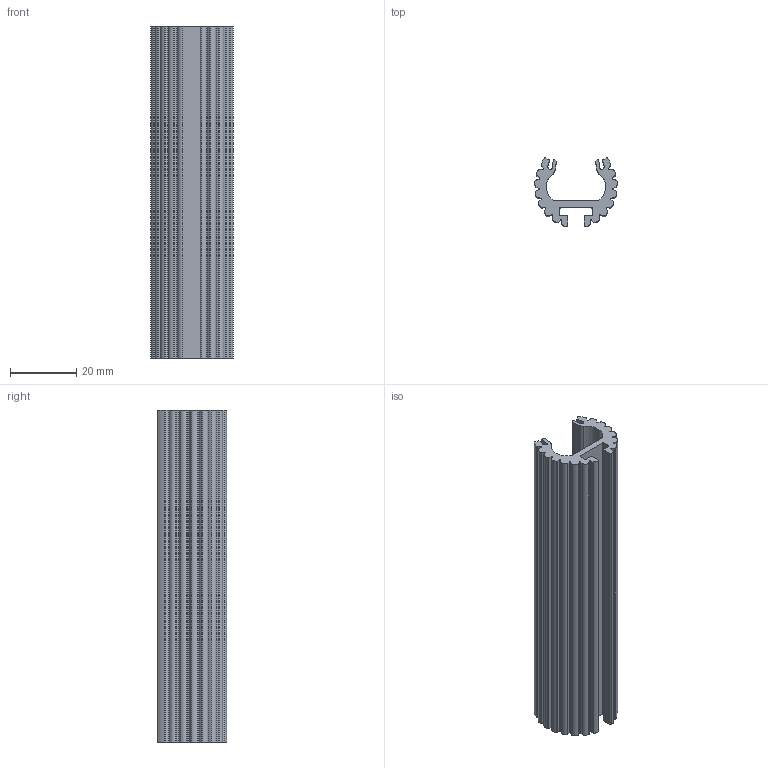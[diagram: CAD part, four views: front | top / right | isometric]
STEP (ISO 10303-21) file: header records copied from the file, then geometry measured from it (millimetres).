
FILE_DESCRIPTION(/* description */ ('GTV-140 LED profile fi25 round'),/* implementation_level */ '2;1');
FILE_NAME(/* name */ 'D:\$Workingspace\Designs\Profile\137 - Profil LED nakładany mały\MOOV pliki\pliki 3ds\PA-GLAXDR-AL.stp',/* time_stamp */ '2018-01-12T13:47:20+01:00',/* author */ ('tomaszw'),/* organization */ (''),/* preprocessor_version */ 'ST-DEVELOPER v16.1',/* originating_system */ 'Autodesk Inventor 2016',/* authorisation */ '');
FILE_SCHEMA (('CONFIG_CONTROL_DESIGN'));
Length unit declared in the file: millimetre
Products named in the file (1): Profil LED okrągły fi25 dyfuzor glax_ver2 odchu
dzenie sciany wytrzym
Bounding box: 24.94 x 20.83 x 100 mm (x, y, z)
Volume: 17320.2 mm3; surface area: 16001.1 mm2
Topology: 1 solids, 1 shells, 136 faces, 402 edges, 268 vertices
Faces by surface type: cylinder 82, plane 54
Entity records: 4634 total; most frequent: DIRECTION 840, CARTESIAN_POINT 807, ORIENTED_EDGE 804, EDGE_CURVE 402, AXIS2_PLACEMENT_3D 301, VERTEX_POINT 268, LINE 238, VECTOR 238
